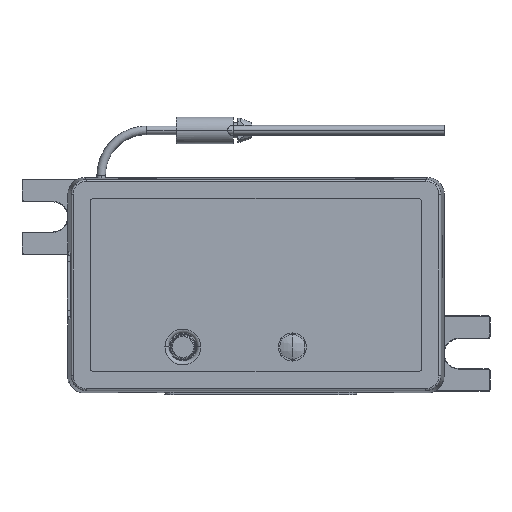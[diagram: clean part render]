
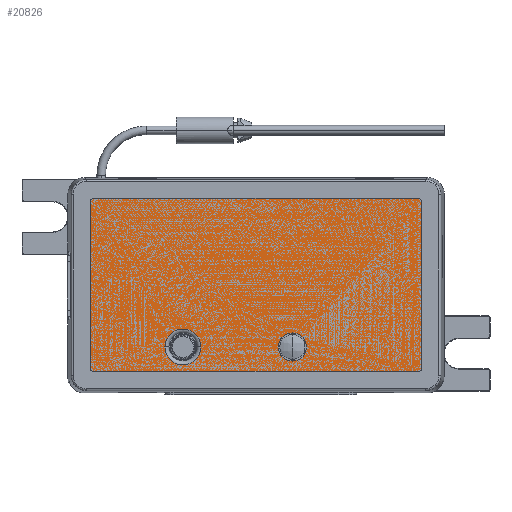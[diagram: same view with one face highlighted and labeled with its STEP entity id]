
A CAD part, top view. The second image highlights one B-rep face of the part: STEP entity #20826.
In plain terms, the highlighted planar face has unit normal (0, 0, 1).
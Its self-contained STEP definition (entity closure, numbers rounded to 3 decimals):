
#1026 =( BOUNDED_CURVE ( )  B_SPLINE_CURVE ( 3, ( #42969, #18509, #125498, #139064 ),
 .UNSPECIFIED., .F., .F. ) 
 B_SPLINE_CURVE_WITH_KNOTS ( ( 4, 4 ),
 ( 2.356, 3.927 ),
 .UNSPECIFIED. ) 
 CURVE ( )  GEOMETRIC_REPRESENTATION_ITEM ( )  RATIONAL_B_SPLINE_CURVE ( ( 1., 0.805, 0.805, 1. ) ) 
 REPRESENTATION_ITEM ( '' )  );
#4416 = CARTESIAN_POINT ( 'NONE',  ( 21.96, -10.963, 8.25 ) ) ;
#4484 = CIRCLE ( 'NONE', #108708, 2.371 ) ;
#7104 = VERTEX_POINT ( 'NONE', #133681 ) ;
#7542 = EDGE_CURVE ( 'NONE', #34260, #17185, #14956, .T. ) ;
#7717 = ORIENTED_EDGE ( 'NONE', *, *, #8580, .T. ) ;
#8025 = CARTESIAN_POINT ( 'NONE',  ( -21.96, 10.963, 8.25 ) ) ;
#8580 = EDGE_CURVE ( 'NONE', #91442, #7104, #53028, .T. ) ;
#9247 = CARTESIAN_POINT ( 'NONE',  ( -9.684, -8.2, 8.25 ) ) ;
#12633 = DIRECTION ( 'NONE',  ( 0., 0., 1. ) ) ;
#12949 = CARTESIAN_POINT ( 'NONE',  ( 21.96, 0., 8.25 ) ) ;
#13532 = CARTESIAN_POINT ( 'NONE',  ( -21.96, 10.963, 8.25 ) ) ;
#14956 =( BOUNDED_CURVE ( )  B_SPLINE_CURVE ( 3, ( #17155, #60525, #58758, #4416 ),
 .UNSPECIFIED., .F., .F. ) 
 B_SPLINE_CURVE_WITH_KNOTS ( ( 4, 4 ),
 ( 2.356, 3.927 ),
 .UNSPECIFIED. ) 
 CURVE ( )  GEOMETRIC_REPRESENTATION_ITEM ( )  RATIONAL_B_SPLINE_CURVE ( ( 1., 0.805, 0.805, 1. ) ) 
 REPRESENTATION_ITEM ( '' )  );
#15801 = ORIENTED_EDGE ( 'NONE', *, *, #148469, .F. ) ;
#17155 = CARTESIAN_POINT ( 'NONE',  ( 21.46, -11.463, 8.25 ) ) ;
#17185 = VERTEX_POINT ( 'NONE', #125267 ) ;
#18509 = CARTESIAN_POINT ( 'NONE',  ( 21.96, 11.256, 8.25 ) ) ;
#18622 = DIRECTION ( 'NONE',  ( 1., 0., 0. ) ) ;
#20082 = FACE_BOUND ( 'NONE', #73583, .T. ) ;
#20826 = ADVANCED_FACE ( 'NONE', ( #20082, #158829, #36362 ), #47257, .T. ) ;
#22804 = DIRECTION ( 'NONE',  ( 0., 0., -1. ) ) ;
#25500 = LINE ( 'NONE', #39094, #85674 ) ;
#27889 = EDGE_CURVE ( 'NONE', #90363, #153370, #4484, .T. ) ;
#28777 = EDGE_CURVE ( 'NONE', #107243, #91442, #25500, .T. ) ;
#28895 = CARTESIAN_POINT ( 'NONE',  ( 4.811, -8.2, 8.25 ) ) ;
#29844 = CARTESIAN_POINT ( 'NONE',  ( -21.46, -11.463, 8.25 ) ) ;
#34260 = VERTEX_POINT ( 'NONE', #91591 ) ;
#36362 = FACE_OUTER_BOUND ( 'NONE', #170898, .T. ) ;
#36861 = VERTEX_POINT ( 'NONE', #176533 ) ;
#39094 = CARTESIAN_POINT ( 'NONE',  ( -21.96, 0., 8.25 ) ) ;
#40136 = EDGE_CURVE ( 'NONE', #17185, #174767, #77510, .T. ) ;
#42969 = CARTESIAN_POINT ( 'NONE',  ( 21.96, 10.963, 8.25 ) ) ;
#43386 = CARTESIAN_POINT ( 'NONE',  ( -21.96, -10.963, 8.25 ) ) ;
#46244 = ORIENTED_EDGE ( 'NONE', *, *, #28777, .T. ) ;
#46800 = CIRCLE ( 'NONE', #125006, 1.854 ) ;
#47257 = PLANE ( 'NONE',  #87738 ) ;
#49149 = CARTESIAN_POINT ( 'NONE',  ( -21.96, -10.963, 8.25 ) ) ;
#50596 = ORIENTED_EDGE ( 'NONE', *, *, #94374, .T. ) ;
#53028 =( BOUNDED_CURVE ( )  B_SPLINE_CURVE ( 3, ( #43386, #154981, #101249, #29844 ),
 .UNSPECIFIED., .F., .F. ) 
 B_SPLINE_CURVE_WITH_KNOTS ( ( 4, 4 ),
 ( 2.356, 3.927 ),
 .UNSPECIFIED. ) 
 CURVE ( )  GEOMETRIC_REPRESENTATION_ITEM ( )  RATIONAL_B_SPLINE_CURVE ( ( 1., 0.805, 0.805, 1. ) ) 
 REPRESENTATION_ITEM ( '' )  );
#58758 = CARTESIAN_POINT ( 'NONE',  ( 21.96, -11.256, 8.25 ) ) ;
#60525 = CARTESIAN_POINT ( 'NONE',  ( 21.753, -11.463, 8.25 ) ) ;
#63011 = DIRECTION ( 'NONE',  ( 0., 1., 0. ) ) ;
#64004 = CARTESIAN_POINT ( 'NONE',  ( 0., 11.463, 8.25 ) ) ;
#65046 = DIRECTION ( 'NONE',  ( 1., 0., 0. ) ) ;
#67110 = CARTESIAN_POINT ( 'NONE',  ( 21.96, 10.963, 8.25 ) ) ;
#69153 = CIRCLE ( 'NONE', #121174, 2.371 ) ;
#73583 = EDGE_LOOP ( 'NONE', ( #151532, #165550 ) ) ;
#76562 = VECTOR ( 'NONE', #119320, 1000. ) ;
#77510 = LINE ( 'NONE', #12949, #150322 ) ;
#77623 = LINE ( 'NONE', #64004, #76562 ) ;
#84698 = EDGE_CURVE ( 'NONE', #36861, #113849, #87530, .T. ) ;
#85674 = VECTOR ( 'NONE', #121505, 1000. ) ;
#87210 = CARTESIAN_POINT ( 'NONE',  ( -12.055, -8.2, 8.25 ) ) ;
#87530 = CIRCLE ( 'NONE', #133755, 1.854 ) ;
#87738 = AXIS2_PLACEMENT_3D ( 'NONE', #91594, #133309, #89815 ) ;
#89815 = DIRECTION ( 'NONE',  ( 1., 0., 0. ) ) ;
#90363 = VERTEX_POINT ( 'NONE', #87210 ) ;
#91442 = VERTEX_POINT ( 'NONE', #49149 ) ;
#91591 = CARTESIAN_POINT ( 'NONE',  ( 21.46, -11.463, 8.25 ) ) ;
#91594 = CARTESIAN_POINT ( 'NONE',  ( 0., 0., 8.25 ) ) ;
#92421 = CARTESIAN_POINT ( 'NONE',  ( -21.46, 11.463, 8.25 ) ) ;
#93999 = DIRECTION ( 'NONE',  ( 0., 0., 1. ) ) ;
#94374 = EDGE_CURVE ( 'NONE', #7104, #34260, #104555, .T. ) ;
#99353 =( BOUNDED_CURVE ( )  B_SPLINE_CURVE ( 3, ( #148647, #150444, #137662, #13532 ),
 .UNSPECIFIED., .F., .F. ) 
 B_SPLINE_CURVE_WITH_KNOTS ( ( 4, 4 ),
 ( 2.356, 3.927 ),
 .UNSPECIFIED. ) 
 CURVE ( )  GEOMETRIC_REPRESENTATION_ITEM ( )  RATIONAL_B_SPLINE_CURVE ( ( 1., 0.805, 0.805, 1. ) ) 
 REPRESENTATION_ITEM ( '' )  );
#101249 = CARTESIAN_POINT ( 'NONE',  ( -21.753, -11.463, 8.25 ) ) ;
#104555 = LINE ( 'NONE', #170901, #127832 ) ;
#106913 = EDGE_LOOP ( 'NONE', ( #15801, #128417 ) ) ;
#107243 = VERTEX_POINT ( 'NONE', #8025 ) ;
#108708 = AXIS2_PLACEMENT_3D ( 'NONE', #144294, #130624, #127100 ) ;
#113849 = VERTEX_POINT ( 'NONE', #122946 ) ;
#118254 = CARTESIAN_POINT ( 'NONE',  ( -7.314, -8.2, 8.25 ) ) ;
#118296 = ORIENTED_EDGE ( 'NONE', *, *, #164535, .T. ) ;
#118852 = DIRECTION ( 'NONE',  ( 1., 0., 0. ) ) ;
#119320 = DIRECTION ( 'NONE',  ( -1., 0., 0. ) ) ;
#120031 = ORIENTED_EDGE ( 'NONE', *, *, #40136, .T. ) ;
#120292 = ORIENTED_EDGE ( 'NONE', *, *, #7542, .T. ) ;
#121174 = AXIS2_PLACEMENT_3D ( 'NONE', #9247, #22804, #118852 ) ;
#121505 = DIRECTION ( 'NONE',  ( 0., -1., 0. ) ) ;
#122946 = CARTESIAN_POINT ( 'NONE',  ( 6.666, -8.2, 8.25 ) ) ;
#123083 = VERTEX_POINT ( 'NONE', #92421 ) ;
#125006 = AXIS2_PLACEMENT_3D ( 'NONE', #28895, #12633, #179375 ) ;
#125267 = CARTESIAN_POINT ( 'NONE',  ( 21.96, -10.963, 8.25 ) ) ;
#125498 = CARTESIAN_POINT ( 'NONE',  ( 21.753, 11.463, 8.25 ) ) ;
#126255 = VERTEX_POINT ( 'NONE', #139804 ) ;
#127100 = DIRECTION ( 'NONE',  ( 1., 0., 0. ) ) ;
#127814 = EDGE_CURVE ( 'NONE', #126255, #123083, #77623, .T. ) ;
#127832 = VECTOR ( 'NONE', #18622, 1000. ) ;
#128417 = ORIENTED_EDGE ( 'NONE', *, *, #84698, .F. ) ;
#130624 = DIRECTION ( 'NONE',  ( 0., 0., -1. ) ) ;
#130997 = ORIENTED_EDGE ( 'NONE', *, *, #127814, .T. ) ;
#133309 = DIRECTION ( 'NONE',  ( 0., 0., 1. ) ) ;
#133681 = CARTESIAN_POINT ( 'NONE',  ( -21.46, -11.463, 8.25 ) ) ;
#133755 = AXIS2_PLACEMENT_3D ( 'NONE', #163009, #93999, #65046 ) ;
#137662 = CARTESIAN_POINT ( 'NONE',  ( -21.96, 11.256, 8.25 ) ) ;
#139064 = CARTESIAN_POINT ( 'NONE',  ( 21.46, 11.463, 8.25 ) ) ;
#139804 = CARTESIAN_POINT ( 'NONE',  ( 21.46, 11.463, 8.25 ) ) ;
#144294 = CARTESIAN_POINT ( 'NONE',  ( -9.684, -8.2, 8.25 ) ) ;
#148469 = EDGE_CURVE ( 'NONE', #113849, #36861, #46800, .T. ) ;
#148647 = CARTESIAN_POINT ( 'NONE',  ( -21.46, 11.463, 8.25 ) ) ;
#150322 = VECTOR ( 'NONE', #63011, 1000. ) ;
#150444 = CARTESIAN_POINT ( 'NONE',  ( -21.753, 11.463, 8.25 ) ) ;
#151532 = ORIENTED_EDGE ( 'NONE', *, *, #174682, .T. ) ;
#153370 = VERTEX_POINT ( 'NONE', #118254 ) ;
#154981 = CARTESIAN_POINT ( 'NONE',  ( -21.96, -11.256, 8.25 ) ) ;
#155560 = EDGE_CURVE ( 'NONE', #174767, #126255, #1026, .T. ) ;
#158829 = FACE_BOUND ( 'NONE', #106913, .T. ) ;
#163009 = CARTESIAN_POINT ( 'NONE',  ( 4.811, -8.2, 8.25 ) ) ;
#164535 = EDGE_CURVE ( 'NONE', #123083, #107243, #99353, .T. ) ;
#164965 = ORIENTED_EDGE ( 'NONE', *, *, #155560, .T. ) ;
#165550 = ORIENTED_EDGE ( 'NONE', *, *, #27889, .T. ) ;
#170898 = EDGE_LOOP ( 'NONE', ( #46244, #7717, #50596, #120292, #120031, #164965, #130997, #118296 ) ) ;
#170901 = CARTESIAN_POINT ( 'NONE',  ( 0., -11.463, 8.25 ) ) ;
#174682 = EDGE_CURVE ( 'NONE', #153370, #90363, #69153, .T. ) ;
#174767 = VERTEX_POINT ( 'NONE', #67110 ) ;
#176533 = CARTESIAN_POINT ( 'NONE',  ( 2.957, -8.2, 8.25 ) ) ;
#179375 = DIRECTION ( 'NONE',  ( 1., 0., 0. ) ) ;
